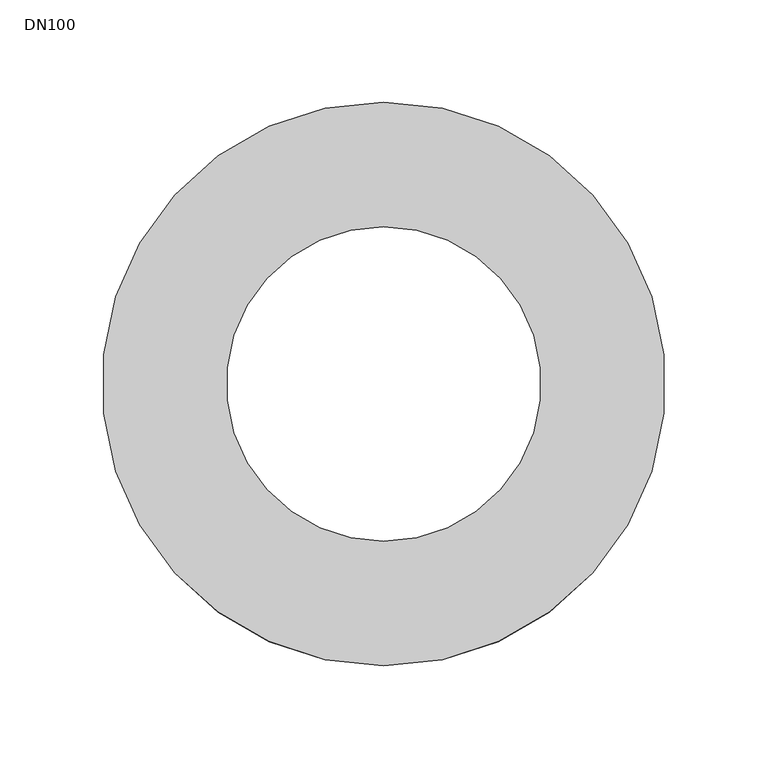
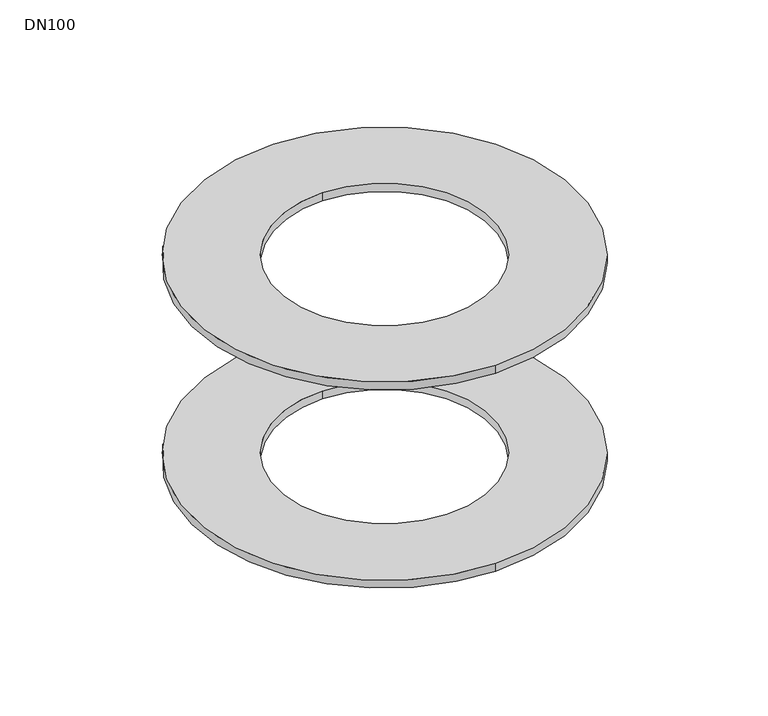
"""IFC4 building model written with IfcOpenShell, lengths in millimetres: sanitary terminal geometry, PF_GEN_configurable gully double body Passavant Spin_ACO : DN100."""

from ifc_helpers import new_model, si_unit, point, frame, origin, origin_2d, place, context, project, spatial, circle_curve, trimmed, segment, composite_curve, outline, extrude, source, transform, mapped, element, save


def dn100_9063cb63(model_context):
    return source(origin(), model_context, "Body", "SweptSolid", [
        extrude(outline(composite_curve([segment(trimmed(circle_curve(origin_2d(), 138.0), [point((0.0, -138.0))], [point((0.0, 138.0))], False, "CARTESIAN"), True, "CONTINUOUS"), segment(trimmed(circle_curve(origin_2d(), 138.0), [point((0.0, 138.0))], [point((0.0, -138.0))], False, "CARTESIAN"), True, "CONTINUOUS")], self_intersect=False), holes=[composite_curve([segment(trimmed(circle_curve(origin_2d(), 77.0), [point((0.0, -77.0))], [point((0.0, 77.0))], True, "CARTESIAN"), True, "CONTINUOUS"), segment(trimmed(circle_curve(origin_2d(), 77.0), [point((0.0, 77.0))], [point((0.0, -77.0))], True, "CARTESIAN"), True, "CONTINUOUS")], self_intersect=False)]), frame((0.0, 0.0, 155.0), z_axis=(0.0, 0.0, 1.0), x_axis=(1.0, 0.0, 0.0)), (0.0, 0.0, 1.0), 6.0),
        extrude(outline(composite_curve([segment(trimmed(circle_curve(origin_2d(), 138.0), [point((0.0, -138.0))], [point((0.0, 138.0))], False, "CARTESIAN"), True, "CONTINUOUS"), segment(trimmed(circle_curve(origin_2d(), 138.0), [point((0.0, 138.0))], [point((0.0, -138.0))], False, "CARTESIAN"), True, "CONTINUOUS")], self_intersect=False), holes=[composite_curve([segment(trimmed(circle_curve(origin_2d(), 77.0), [point((0.0, -77.0))], [point((0.0, 77.0))], True, "CARTESIAN"), True, "CONTINUOUS"), segment(trimmed(circle_curve(origin_2d(), 77.0), [point((0.0, 77.0))], [point((0.0, -77.0))], True, "CARTESIAN"), True, "CONTINUOUS")], self_intersect=False)]), frame((0.0, 0.0, 5.0), z_axis=(0.0, 0.0, 1.0), x_axis=(1.0, 0.0, 0.0)), (0.0, 0.0, 1.0), 6.0),
    ])


if __name__ == "__main__":
    model = new_model("IFC4")
    model_context = context("Model", 3, world=origin())
    ifc_project = project(units=[si_unit("LENGTHUNIT", "METRE", prefix="MILLI")], contexts=[model_context])
    site = spatial("IfcSite", under=ifc_project)
    building = spatial("IfcBuilding", under=site)
    placement = place(None, origin())
    dn100_shape = dn100_9063cb63(model_context)
    element("IfcSanitaryTerminal", 1, ObjectType="PF_GEN_configurable gully double body Passavant Spin_ACO : DN100", at=placement, inside=building, context=model_context, shape_type="MappedRepresentation", body=[
        mapped(dn100_shape, transform((0.0, 0.0, 0.0), x_axis=(1.0, 0.0, 0.0), y_axis=(0.0, 1.0, 0.0), z_axis=(0.0, 0.0, 1.0))),
    ])
    save(model, "model.ifc")
